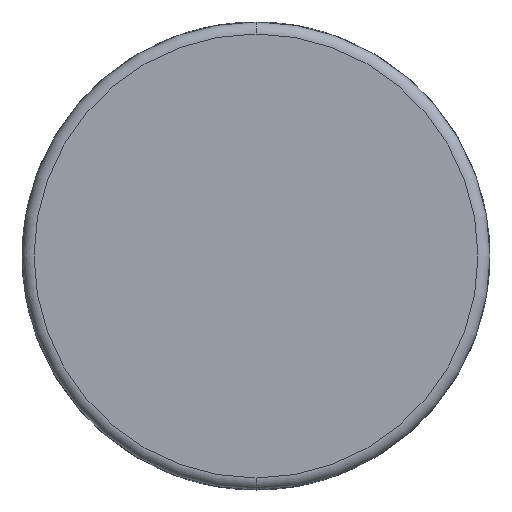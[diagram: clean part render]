
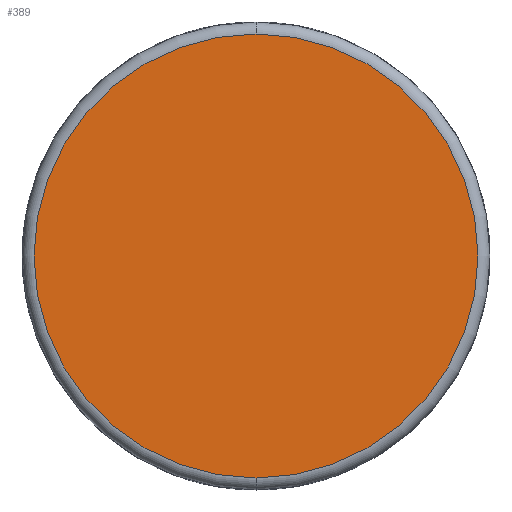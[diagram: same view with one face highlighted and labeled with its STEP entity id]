
A CAD part, front view. The second image highlights one B-rep face of the part: STEP entity #389.
In plain terms, the highlighted planar face has unit normal (0, -1, 0).
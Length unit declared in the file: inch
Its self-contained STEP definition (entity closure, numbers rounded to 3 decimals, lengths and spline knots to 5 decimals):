
#246 = EDGE_CURVE ( 'NONE', #247, #248, #1660, .T. ) ;
#247 = VERTEX_POINT ( 'NONE', #1669 ) ;
#248 = VERTEX_POINT ( 'NONE', #1668 ) ;
#318 = ORIENTED_EDGE ( 'NONE', *, *, #246, .T. ) ;
#389 = ADVANCED_FACE ( 'NONE', ( #1963 ), #1948, .F. ) ;
#390 = EDGE_LOOP ( 'NONE', ( #391, #318 ) ) ;
#391 = ORIENTED_EDGE ( 'NONE', *, *, #392, .T. ) ;
#392 = EDGE_CURVE ( 'NONE', #248, #247, #1932, .T. ) ;
#1660 = CIRCLE ( 'NONE', #1675, 1.11 ) ;
#1668 = CARTESIAN_POINT ( 'NONE',  ( 0., 0., 1.11 ) ) ;
#1669 = CARTESIAN_POINT ( 'NONE',  ( 0., 0., -1.11 ) ) ;
#1670 = DIRECTION ( 'NONE',  ( 0., 0., 1. ) ) ;
#1673 = DIRECTION ( 'NONE',  ( 0., -1., 0. ) ) ;
#1674 = CARTESIAN_POINT ( 'NONE',  ( 0., 0., 0. ) ) ;
#1675 = AXIS2_PLACEMENT_3D ( 'NONE', #1674, #1673, #1670 ) ;
#1910 = DIRECTION ( 'NONE',  ( 0., 0., 1. ) ) ;
#1911 = DIRECTION ( 'NONE',  ( 0., -1., 0. ) ) ;
#1912 = CARTESIAN_POINT ( 'NONE',  ( 0., 0., 0. ) ) ;
#1913 = AXIS2_PLACEMENT_3D ( 'NONE', #1912, #1911, #1910 ) ;
#1914 = DIRECTION ( 'NONE',  ( 0., 0., 1. ) ) ;
#1915 = DIRECTION ( 'NONE',  ( 0., 1., 0. ) ) ;
#1930 = CARTESIAN_POINT ( 'NONE',  ( 0., 0., 0. ) ) ;
#1931 = AXIS2_PLACEMENT_3D ( 'NONE', #1930, #1915, #1914 ) ;
#1932 = CIRCLE ( 'NONE', #1913, 1.11 ) ;
#1948 = PLANE ( 'NONE',  #1931 ) ;
#1963 = FACE_OUTER_BOUND ( 'NONE', #390, .T. ) ;
